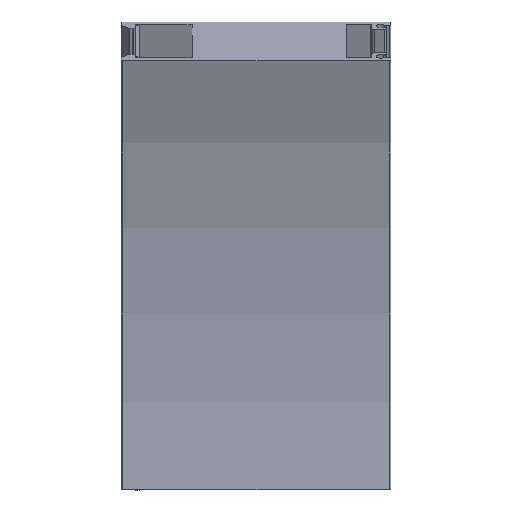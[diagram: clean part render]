
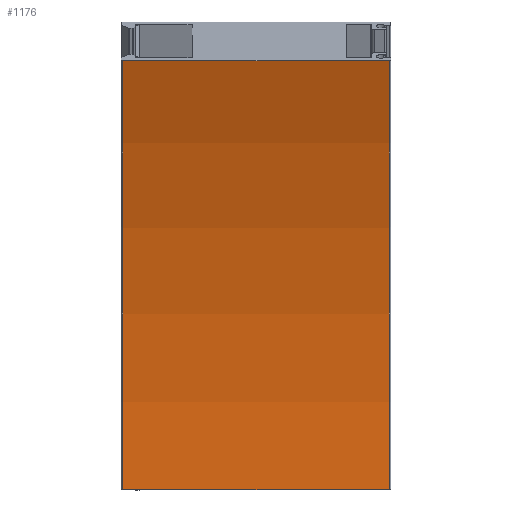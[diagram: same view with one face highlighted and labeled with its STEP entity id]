
A CAD part, left-side view. The second image highlights one B-rep face of the part: STEP entity #1176.
In plain terms, the highlighted cylindrical face has radius 372.2 mm (diameter 744.4 mm), a partial arc.
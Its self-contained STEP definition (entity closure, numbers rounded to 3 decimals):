
#36=CYLINDRICAL_SURFACE('',#1333,372.2);
#59=LINE('',#2014,#127);
#60=LINE('',#2016,#128);
#127=VECTOR('',#1587,10.);
#128=VECTOR('',#1588,10.);
#216=FACE_OUTER_BOUND('',#282,.T.);
#282=EDGE_LOOP('',(#821,#822,#823,#824));
#366=CIRCLE('',#1332,372.2);
#367=CIRCLE('',#1334,372.2);
#481=VERTEX_POINT('',#2007);
#482=VERTEX_POINT('',#2009);
#483=VERTEX_POINT('',#2013);
#484=VERTEX_POINT('',#2015);
#620=EDGE_CURVE('',#481,#482,#366,.T.);
#621=EDGE_CURVE('',#483,#481,#59,.T.);
#622=EDGE_CURVE('',#484,#482,#60,.T.);
#623=EDGE_CURVE('',#483,#484,#367,.T.);
#821=ORIENTED_EDGE('',*,*,#621,.T.);
#822=ORIENTED_EDGE('',*,*,#620,.T.);
#823=ORIENTED_EDGE('',*,*,#622,.F.);
#824=ORIENTED_EDGE('',*,*,#623,.F.);
#1176=ADVANCED_FACE('',(#216),#36,.F.);
#1332=AXIS2_PLACEMENT_3D('',#2011,#1583,#1584);
#1333=AXIS2_PLACEMENT_3D('',#2012,#1585,#1586);
#1334=AXIS2_PLACEMENT_3D('',#2017,#1589,#1590);
#1583=DIRECTION('center_axis',(0.,-1.,0.));
#1584=DIRECTION('ref_axis',(1.,0.,0.));
#1585=DIRECTION('center_axis',(0.,-1.,0.));
#1586=DIRECTION('ref_axis',(1.,0.,0.));
#1587=DIRECTION('',(0.,-1.,0.));
#1588=DIRECTION('',(0.,-1.,0.));
#1589=DIRECTION('center_axis',(0.,-1.,0.));
#1590=DIRECTION('ref_axis',(1.,0.,0.));
#2007=CARTESIAN_POINT('',(-18.595,-41.736,0.));
#2009=CARTESIAN_POINT('',(-50.773,-41.736,151.387));
#2011=CARTESIAN_POINT('Origin',(-390.795,-41.736,0.));
#2012=CARTESIAN_POINT('Origin',(-390.795,5.314,0.));
#2013=CARTESIAN_POINT('',(-18.595,52.364,0.));
#2014=CARTESIAN_POINT('',(-18.595,52.364,0.));
#2015=CARTESIAN_POINT('',(-50.773,52.364,151.387));
#2016=CARTESIAN_POINT('',(-50.773,52.364,151.387));
#2017=CARTESIAN_POINT('Origin',(-390.795,52.364,0.));
